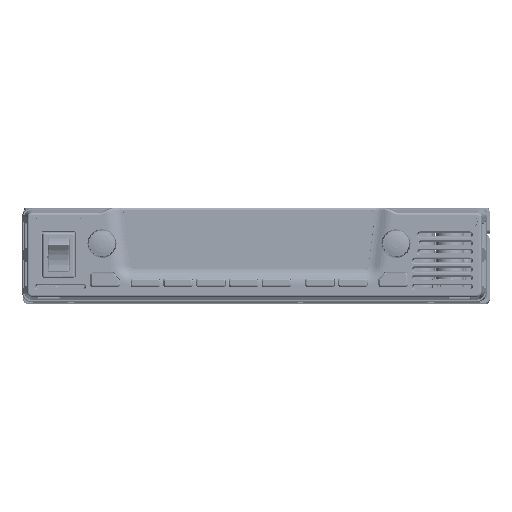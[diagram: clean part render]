
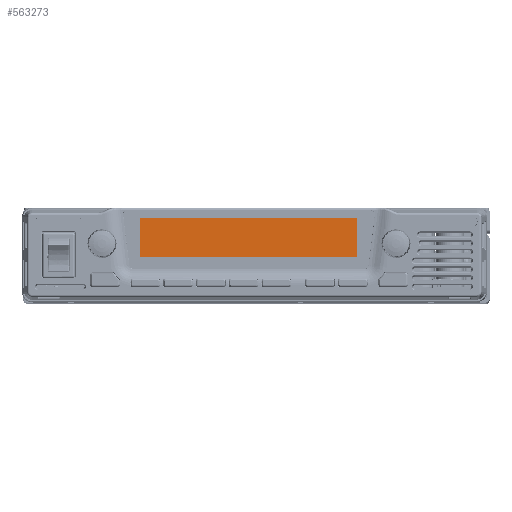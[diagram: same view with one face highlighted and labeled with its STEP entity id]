
A CAD part, top view. The second image highlights one B-rep face of the part: STEP entity #563273.
In plain terms, the highlighted planar face has unit normal (0, 0, 1).
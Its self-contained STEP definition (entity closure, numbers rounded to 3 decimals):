
#14373 = EDGE_LOOP ( 'NONE', ( #664827, #66309, #761510, #138330 ) ) ;
#21908 = CARTESIAN_POINT ( 'NONE',  ( -123.74, 109.65, 0.5 ) ) ;
#41896 = LINE ( 'NONE', #216419, #665184 ) ;
#42894 = CARTESIAN_POINT ( 'NONE',  ( -24.24, 109.65, 0.5 ) ) ;
#59850 = VECTOR ( 'NONE', #266462, 1000. ) ;
#66309 = ORIENTED_EDGE ( 'NONE', *, *, #92102, .T. ) ;
#92102 = EDGE_CURVE ( 'NONE', #256936, #245085, #325797, .T. ) ;
#138330 = ORIENTED_EDGE ( 'NONE', *, *, #183221, .T. ) ;
#153076 = CARTESIAN_POINT ( 'NONE',  ( -123.74, 91.65, 0.5 ) ) ;
#165720 = CARTESIAN_POINT ( 'NONE',  ( -24.24, 91.65, 0.5 ) ) ;
#174140 = CARTESIAN_POINT ( 'NONE',  ( -24.24, 109.65, 0.5 ) ) ;
#183193 = CARTESIAN_POINT ( 'NONE',  ( -123.74, 91.65, 0.5 ) ) ;
#183221 = EDGE_CURVE ( 'NONE', #286209, #287330, #692809, .T. ) ;
#216419 = CARTESIAN_POINT ( 'NONE',  ( -123.74, 109.65, 0.5 ) ) ;
#245085 = VERTEX_POINT ( 'NONE', #165720 ) ;
#256936 = VERTEX_POINT ( 'NONE', #183193 ) ;
#266462 = DIRECTION ( 'NONE',  ( -1., 0., 0. ) ) ;
#286022 = LINE ( 'NONE', #174140, #351135 ) ;
#286209 = VERTEX_POINT ( 'NONE', #42894 ) ;
#287330 = VERTEX_POINT ( 'NONE', #593848 ) ;
#289672 = PLANE ( 'NONE',  #350964 ) ;
#325797 = LINE ( 'NONE', #153076, #754001 ) ;
#350964 = AXIS2_PLACEMENT_3D ( 'NONE', #710813, #354746, #768040 ) ;
#351135 = VECTOR ( 'NONE', #410915, 1000. ) ;
#354746 = DIRECTION ( 'NONE',  ( 0., 0., 1. ) ) ;
#410915 = DIRECTION ( 'NONE',  ( 0., 1., 0. ) ) ;
#415606 = FACE_OUTER_BOUND ( 'NONE', #14373, .T. ) ;
#458330 = DIRECTION ( 'NONE',  ( 0., -1., 0. ) ) ;
#530862 = DIRECTION ( 'NONE',  ( 1., 0., 0. ) ) ;
#563273 = ADVANCED_FACE ( 'NONE', ( #415606 ), #289672, .T. ) ;
#593848 = CARTESIAN_POINT ( 'NONE',  ( -123.74, 109.65, 0.5 ) ) ;
#664827 = ORIENTED_EDGE ( 'NONE', *, *, #681111, .T. ) ;
#665184 = VECTOR ( 'NONE', #458330, 1000. ) ;
#681111 = EDGE_CURVE ( 'NONE', #287330, #256936, #41896, .T. ) ;
#692809 = LINE ( 'NONE', #21908, #59850 ) ;
#710813 = CARTESIAN_POINT ( 'NONE',  ( 0., 0., 0.5 ) ) ;
#751862 = EDGE_CURVE ( 'NONE', #245085, #286209, #286022, .T. ) ;
#754001 = VECTOR ( 'NONE', #530862, 1000. ) ;
#761510 = ORIENTED_EDGE ( 'NONE', *, *, #751862, .T. ) ;
#768040 = DIRECTION ( 'NONE',  ( 1., 0., 0. ) ) ;
